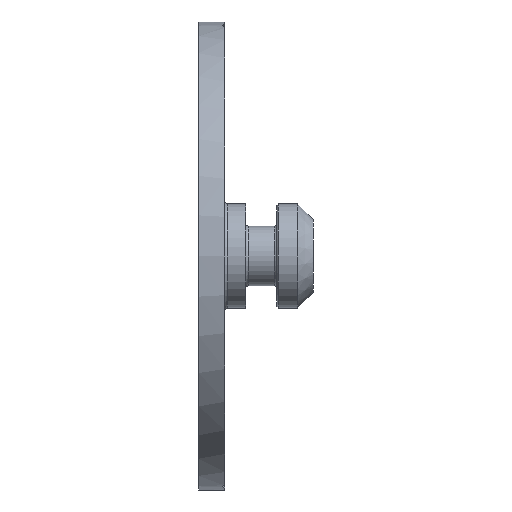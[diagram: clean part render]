
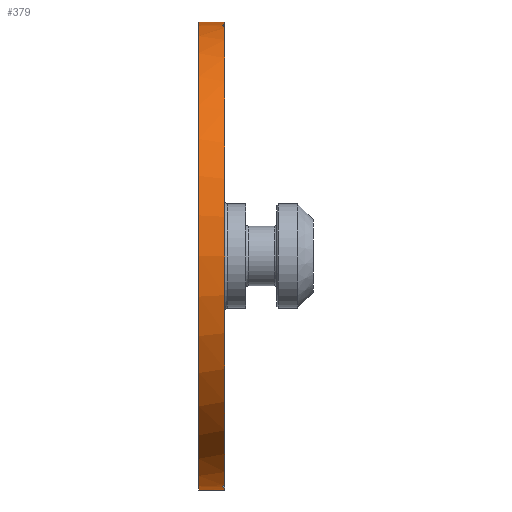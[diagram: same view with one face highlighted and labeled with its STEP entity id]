
A CAD part, left-side view. The second image highlights one B-rep face of the part: STEP entity #379.
In plain terms, the highlighted cylindrical face has radius 45 mm (diameter 90 mm), a partial arc.
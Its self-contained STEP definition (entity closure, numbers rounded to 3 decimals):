
#21 = FACE_OUTER_BOUND ( 'NONE', #3344, .T. ) ;
#37 = EDGE_CURVE ( 'NONE', #2537, #378, #2764, .T. ) ;
#54 = CARTESIAN_POINT ( 'NONE',  ( -5.804, -5., -44.624 ) ) ;
#75 = EDGE_CURVE ( 'NONE', #1652, #3572, #857, .T. ) ;
#214 = CARTESIAN_POINT ( 'NONE',  ( -7., -4.702, -44.452 ) ) ;
#270 = CARTESIAN_POINT ( 'NONE',  ( -5.804, -5., 44.624 ) ) ;
#290 = CARTESIAN_POINT ( 'NONE',  ( -7.517, -4.621, -44.371 ) ) ;
#318 = CARTESIAN_POINT ( 'NONE',  ( -8.038, -4.622, 44.277 ) ) ;
#329 = DIRECTION ( 'NONE',  ( 0., -1., 0. ) ) ;
#354 = VERTEX_POINT ( 'NONE', #3226 ) ;
#378 = VERTEX_POINT ( 'NONE', #2151 ) ;
#379 = ADVANCED_FACE ( 'NONE', ( #21 ), #684, .T. ) ;
#393 = CARTESIAN_POINT ( 'NONE',  ( 0., -5., 0. ) ) ;
#501 = CARTESIAN_POINT ( 'NONE',  ( 0., 0., 45. ) ) ;
#602 = CARTESIAN_POINT ( 'NONE',  ( -9.079, -4.712, 44.078 ) ) ;
#611 = CARTESIAN_POINT ( 'NONE',  ( 0., 0., 0. ) ) ;
#644 = CARTESIAN_POINT ( 'NONE',  ( -7.257, -4.662, 44.412 ) ) ;
#648 = DIRECTION ( 'NONE',  ( 0., -1., 0. ) ) ;
#684 = CYLINDRICAL_SURFACE ( 'NONE', #2507, 45. ) ;
#706 = CARTESIAN_POINT ( 'NONE',  ( 0., -5., 0. ) ) ;
#775 = CARTESIAN_POINT ( 'NONE',  ( 0., 0., -45. ) ) ;
#792 = CARTESIAN_POINT ( 'NONE',  ( -9.081, -4.712, -44.077 ) ) ;
#805 = ORIENTED_EDGE ( 'NONE', *, *, #1028, .F. ) ;
#831 = VERTEX_POINT ( 'NONE', #962 ) ;
#857 = B_SPLINE_CURVE_WITH_KNOTS ( 'NONE', 3,
 ( #3451, #1171, #2871, #54 ),
 .UNSPECIFIED., .F., .F.,
 ( 4, 4 ),
 ( 0.003, 0.004 ),
 .UNSPECIFIED. ) ;
#883 = CARTESIAN_POINT ( 'NONE',  ( -10.078, -5., 43.857 ) ) ;
#941 = CARTESIAN_POINT ( 'NONE',  ( 0., -5., 45. ) ) ;
#962 = CARTESIAN_POINT ( 'NONE',  ( -7., -4.702, 44.452 ) ) ;
#991 = DIRECTION ( 'NONE',  ( 0., 0., -1. ) ) ;
#1000 = VERTEX_POINT ( 'NONE', #3411 ) ;
#1028 = EDGE_CURVE ( 'NONE', #1000, #1652, #3404, .T. ) ;
#1046 = CARTESIAN_POINT ( 'NONE',  ( -5.804, -5., 44.624 ) ) ;
#1050 = B_SPLINE_CURVE_WITH_KNOTS ( 'NONE', 3,
 ( #1046, #2742, #3323, #1620 ),
 .UNSPECIFIED., .F., .F.,
 ( 4, 4 ),
 ( 0., 0.001 ),
 .UNSPECIFIED. ) ;
#1102 = AXIS2_PLACEMENT_3D ( 'NONE', #2322, #2806, #1667 ) ;
#1128 = ORIENTED_EDGE ( 'NONE', *, *, #75, .F. ) ;
#1131 = VERTEX_POINT ( 'NONE', #270 ) ;
#1171 = CARTESIAN_POINT ( 'NONE',  ( -6.596, -4.766, -44.516 ) ) ;
#1205 = VECTOR ( 'NONE', #2168, 1000. ) ;
#1226 = ORIENTED_EDGE ( 'NONE', *, *, #3274, .F. ) ;
#1400 = EDGE_CURVE ( 'NONE', #3572, #2193, #2305, .T. ) ;
#1620 = CARTESIAN_POINT ( 'NONE',  ( -7., -4.702, 44.452 ) ) ;
#1637 = DIRECTION ( 'NONE',  ( 0., 0., -1. ) ) ;
#1652 = VERTEX_POINT ( 'NONE', #1669 ) ;
#1667 = DIRECTION ( 'NONE',  ( 0., 0., -1. ) ) ;
#1669 = CARTESIAN_POINT ( 'NONE',  ( -7., -4.702, -44.452 ) ) ;
#1808 = LINE ( 'NONE', #775, #3415 ) ;
#1825 = CARTESIAN_POINT ( 'NONE',  ( 0., 0., 45. ) ) ;
#1878 = ORIENTED_EDGE ( 'NONE', *, *, #37, .T. ) ;
#1899 = EDGE_CURVE ( 'NONE', #3173, #1131, #3183, .T. ) ;
#1931 = CARTESIAN_POINT ( 'NONE',  ( 0., -5., 0. ) ) ;
#1966 = LINE ( 'NONE', #1825, #1205 ) ;
#2016 = CARTESIAN_POINT ( 'NONE',  ( -7.515, -4.637, 44.369 ) ) ;
#2134 = ORIENTED_EDGE ( 'NONE', *, *, #3119, .F. ) ;
#2151 = CARTESIAN_POINT ( 'NONE',  ( 0., 0., -45. ) ) ;
#2168 = DIRECTION ( 'NONE',  ( 0., -1., 0. ) ) ;
#2193 = VERTEX_POINT ( 'NONE', #2381 ) ;
#2218 = CARTESIAN_POINT ( 'NONE',  ( -9.584, -4.832, -43.971 ) ) ;
#2247 = CIRCLE ( 'NONE', #2461, 45. ) ;
#2305 = CIRCLE ( 'NONE', #2820, 45. ) ;
#2309 = CARTESIAN_POINT ( 'NONE',  ( -8.302, -4.632, 44.228 ) ) ;
#2322 = CARTESIAN_POINT ( 'NONE',  ( 0., 0., 0. ) ) ;
#2381 = CARTESIAN_POINT ( 'NONE',  ( 0., -5., -45. ) ) ;
#2461 = AXIS2_PLACEMENT_3D ( 'NONE', #706, #2686, #991 ) ;
#2476 = CARTESIAN_POINT ( 'NONE',  ( -10.078, -5., -43.857 ) ) ;
#2507 = AXIS2_PLACEMENT_3D ( 'NONE', #611, #329, #2579 ) ;
#2513 = EDGE_CURVE ( 'NONE', #378, #2193, #1808, .T. ) ;
#2537 = VERTEX_POINT ( 'NONE', #501 ) ;
#2570 = CARTESIAN_POINT ( 'NONE',  ( -9.584, -4.832, 43.971 ) ) ;
#2579 = DIRECTION ( 'NONE',  ( 0., 0., -1. ) ) ;
#2613 = CARTESIAN_POINT ( 'NONE',  ( -7., -4.702, 44.452 ) ) ;
#2677 = AXIS2_PLACEMENT_3D ( 'NONE', #393, #648, #2978 ) ;
#2686 = DIRECTION ( 'NONE',  ( 0., -1., 0. ) ) ;
#2742 = CARTESIAN_POINT ( 'NONE',  ( -6.198, -4.868, 44.573 ) ) ;
#2764 = CIRCLE ( 'NONE', #1102, 45. ) ;
#2776 = CARTESIAN_POINT ( 'NONE',  ( -8.05, -4.605, -44.277 ) ) ;
#2777 = ORIENTED_EDGE ( 'NONE', *, *, #1899, .F. ) ;
#2806 = DIRECTION ( 'NONE',  ( 0., -1., 0. ) ) ;
#2820 = AXIS2_PLACEMENT_3D ( 'NONE', #1931, #3642, #1637 ) ;
#2835 = EDGE_CURVE ( 'NONE', #831, #354, #3234, .T. ) ;
#2871 = CARTESIAN_POINT ( 'NONE',  ( -6.197, -4.868, -44.573 ) ) ;
#2978 = DIRECTION ( 'NONE',  ( 0., 0., -1. ) ) ;
#3005 = CARTESIAN_POINT ( 'NONE',  ( -5.804, -5., -44.624 ) ) ;
#3023 = ORIENTED_EDGE ( 'NONE', *, *, #3365, .F. ) ;
#3050 = DIRECTION ( 'NONE',  ( 0., -1., 0. ) ) ;
#3119 = EDGE_CURVE ( 'NONE', #1131, #831, #1050, .T. ) ;
#3173 = VERTEX_POINT ( 'NONE', #941 ) ;
#3183 = CIRCLE ( 'NONE', #2677, 45. ) ;
#3226 = CARTESIAN_POINT ( 'NONE',  ( -10.078, -5., 43.857 ) ) ;
#3234 = B_SPLINE_CURVE_WITH_KNOTS ( 'NONE', 3,
 ( #2613, #644, #2016, #318, #2309, #602, #2570, #883 ),
 .UNSPECIFIED., .F., .F.,
 ( 4, 2, 2, 4 ),
 ( 0.001, 0.002, 0.003, 0.004 ),
 .UNSPECIFIED. ) ;
#3274 = EDGE_CURVE ( 'NONE', #354, #1000, #2247, .T. ) ;
#3323 = CARTESIAN_POINT ( 'NONE',  ( -6.596, -4.766, 44.516 ) ) ;
#3344 = EDGE_LOOP ( 'NONE', ( #3023, #1878, #3420, #3614, #1128, #805, #1226, #3403, #2134, #2777 ) ) ;
#3365 = EDGE_CURVE ( 'NONE', #2537, #3173, #1966, .T. ) ;
#3403 = ORIENTED_EDGE ( 'NONE', *, *, #2835, .F. ) ;
#3404 = B_SPLINE_CURVE_WITH_KNOTS ( 'NONE', 3,
 ( #2476, #2218, #792, #2776, #290, #214 ),
 .UNSPECIFIED., .F., .F.,
 ( 4, 2, 4 ),
 ( 0., 0.002, 0.003 ),
 .UNSPECIFIED. ) ;
#3411 = CARTESIAN_POINT ( 'NONE',  ( -10.078, -5., -43.857 ) ) ;
#3415 = VECTOR ( 'NONE', #3050, 1000. ) ;
#3420 = ORIENTED_EDGE ( 'NONE', *, *, #2513, .T. ) ;
#3451 = CARTESIAN_POINT ( 'NONE',  ( -7., -4.702, -44.452 ) ) ;
#3572 = VERTEX_POINT ( 'NONE', #3005 ) ;
#3614 = ORIENTED_EDGE ( 'NONE', *, *, #1400, .F. ) ;
#3642 = DIRECTION ( 'NONE',  ( 0., -1., 0. ) ) ;
